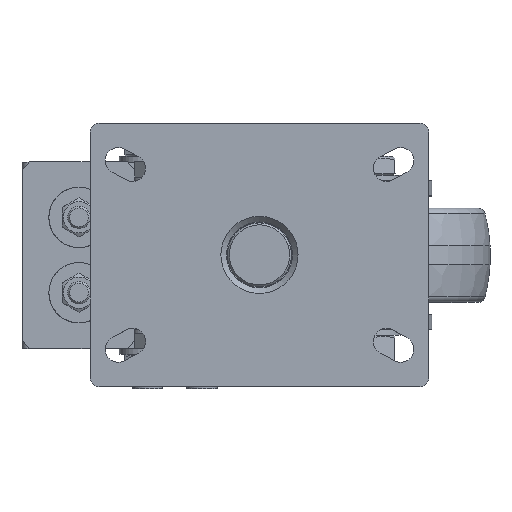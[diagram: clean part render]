
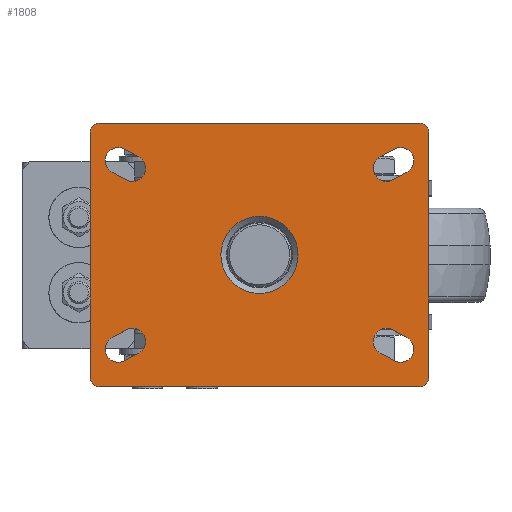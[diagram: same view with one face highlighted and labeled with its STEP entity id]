
A CAD part, top view. The second image highlights one B-rep face of the part: STEP entity #1808.
In plain terms, the highlighted planar face has unit normal (0, 0, 1).
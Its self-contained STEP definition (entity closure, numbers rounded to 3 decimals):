
#913=FACE_BOUND('',#3469,.T.);
#914=FACE_BOUND('',#3470,.T.);
#915=FACE_BOUND('',#3471,.T.);
#916=FACE_BOUND('',#3472,.T.);
#917=FACE_BOUND('',#3473,.T.);
#918=FACE_BOUND('',#3474,.T.);
#1365=CIRCLE('',#11016,7.);
#1366=CIRCLE('',#11019,7.);
#1367=CIRCLE('',#11021,7.);
#1368=CIRCLE('',#11024,7.);
#1369=CIRCLE('',#11026,7.);
#1370=CIRCLE('',#11029,7.);
#1371=CIRCLE('',#11031,7.);
#1372=CIRCLE('',#11034,7.);
#1373=CIRCLE('',#11044,20.5);
#1374=CIRCLE('',#11045,5.);
#1375=CIRCLE('',#11046,5.);
#1376=CIRCLE('',#11047,5.);
#1377=CIRCLE('',#11048,5.);
#1808=ADVANCED_FACE('',(#913,#914,#915,#916,#917,#918),#2312,.T.);
#2312=PLANE('',#11049);
#3469=EDGE_LOOP('',(#5147));
#3470=EDGE_LOOP('',(#5148,#5149,#5150,#5151,#5152,#5153,#5154,#5155));
#3471=EDGE_LOOP('',(#5156,#5157,#5158,#5159));
#3472=EDGE_LOOP('',(#5160,#5161,#5162,#5163));
#3473=EDGE_LOOP('',(#5164,#5165,#5166,#5167));
#3474=EDGE_LOOP('',(#5168,#5169,#5170,#5171));
#5147=ORIENTED_EDGE('',*,*,#8428,.T.);
#5148=ORIENTED_EDGE('',*,*,#8413,.T.);
#5149=ORIENTED_EDGE('',*,*,#8429,.T.);
#5150=ORIENTED_EDGE('',*,*,#8415,.T.);
#5151=ORIENTED_EDGE('',*,*,#8430,.T.);
#5152=ORIENTED_EDGE('',*,*,#8418,.T.);
#5153=ORIENTED_EDGE('',*,*,#8431,.T.);
#5154=ORIENTED_EDGE('',*,*,#8425,.T.);
#5155=ORIENTED_EDGE('',*,*,#8432,.T.);
#5156=ORIENTED_EDGE('',*,*,#8405,.F.);
#5157=ORIENTED_EDGE('',*,*,#8408,.F.);
#5158=ORIENTED_EDGE('',*,*,#8410,.F.);
#5159=ORIENTED_EDGE('',*,*,#8423,.F.);
#5160=ORIENTED_EDGE('',*,*,#8398,.T.);
#5161=ORIENTED_EDGE('',*,*,#8401,.T.);
#5162=ORIENTED_EDGE('',*,*,#8403,.T.);
#5163=ORIENTED_EDGE('',*,*,#8422,.T.);
#5164=ORIENTED_EDGE('',*,*,#8391,.T.);
#5165=ORIENTED_EDGE('',*,*,#8394,.T.);
#5166=ORIENTED_EDGE('',*,*,#8396,.T.);
#5167=ORIENTED_EDGE('',*,*,#8421,.T.);
#5168=ORIENTED_EDGE('',*,*,#8384,.F.);
#5169=ORIENTED_EDGE('',*,*,#8387,.F.);
#5170=ORIENTED_EDGE('',*,*,#8389,.F.);
#5171=ORIENTED_EDGE('',*,*,#8427,.F.);
#7228=VERTEX_POINT('',#16320);
#7229=VERTEX_POINT('',#16321);
#7230=VERTEX_POINT('',#16326);
#7231=VERTEX_POINT('',#16330);
#7232=VERTEX_POINT('',#16334);
#7233=VERTEX_POINT('',#16335);
#7234=VERTEX_POINT('',#16340);
#7235=VERTEX_POINT('',#16344);
#7236=VERTEX_POINT('',#16348);
#7237=VERTEX_POINT('',#16349);
#7238=VERTEX_POINT('',#16354);
#7239=VERTEX_POINT('',#16358);
#7240=VERTEX_POINT('',#16362);
#7241=VERTEX_POINT('',#16363);
#7242=VERTEX_POINT('',#16368);
#7243=VERTEX_POINT('',#16372);
#7244=VERTEX_POINT('',#16376);
#7245=VERTEX_POINT('',#16378);
#7246=VERTEX_POINT('',#16382);
#7247=VERTEX_POINT('',#16383);
#7248=VERTEX_POINT('',#16388);
#7249=VERTEX_POINT('',#16389);
#7250=VERTEX_POINT('',#16400);
#7251=VERTEX_POINT('',#16402);
#7252=VERTEX_POINT('',#16408);
#8384=EDGE_CURVE('',#7228,#7229,#1365,.T.);
#8387=EDGE_CURVE('',#7230,#7228,#9440,.T.);
#8389=EDGE_CURVE('',#7231,#7230,#1366,.T.);
#8391=EDGE_CURVE('',#7232,#7233,#1367,.T.);
#8394=EDGE_CURVE('',#7233,#7234,#9445,.T.);
#8396=EDGE_CURVE('',#7234,#7235,#1368,.T.);
#8398=EDGE_CURVE('',#7236,#7237,#1369,.T.);
#8401=EDGE_CURVE('',#7237,#7238,#9450,.T.);
#8403=EDGE_CURVE('',#7238,#7239,#1370,.T.);
#8405=EDGE_CURVE('',#7240,#7241,#1371,.T.);
#8408=EDGE_CURVE('',#7242,#7240,#9455,.T.);
#8410=EDGE_CURVE('',#7243,#7242,#1372,.T.);
#8413=EDGE_CURVE('',#7245,#7244,#9459,.T.);
#8415=EDGE_CURVE('',#7246,#7247,#9461,.T.);
#8418=EDGE_CURVE('',#7248,#7249,#9464,.T.);
#8421=EDGE_CURVE('',#7235,#7232,#9467,.T.);
#8422=EDGE_CURVE('',#7239,#7236,#9468,.T.);
#8423=EDGE_CURVE('',#7241,#7243,#9469,.T.);
#8425=EDGE_CURVE('',#7251,#7250,#9471,.T.);
#8427=EDGE_CURVE('',#7229,#7231,#9473,.T.);
#8428=EDGE_CURVE('',#7252,#7252,#1373,.T.);
#8429=EDGE_CURVE('',#7244,#7246,#1374,.T.);
#8430=EDGE_CURVE('',#7247,#7248,#1375,.T.);
#8431=EDGE_CURVE('',#7249,#7251,#1376,.T.);
#8432=EDGE_CURVE('',#7250,#7245,#1377,.T.);
#9440=LINE('',#16325,#10082);
#9445=LINE('',#16339,#10087);
#9450=LINE('',#16353,#10092);
#9455=LINE('',#16367,#10097);
#9459=LINE('',#16377,#10101);
#9461=LINE('',#16381,#10103);
#9464=LINE('',#16387,#10106);
#9467=LINE('',#16393,#10109);
#9468=LINE('',#16395,#10110);
#9469=LINE('',#16397,#10111);
#9471=LINE('',#16401,#10113);
#9473=LINE('',#16405,#10115);
#10082=VECTOR('',#12835,1.);
#10087=VECTOR('',#12850,1.);
#10092=VECTOR('',#12865,1.);
#10097=VECTOR('',#12880,1.);
#10101=VECTOR('',#12890,1.);
#10103=VECTOR('',#12894,1.);
#10106=VECTOR('',#12899,1.);
#10109=VECTOR('',#12904,1.);
#10110=VECTOR('',#12907,1.);
#10111=VECTOR('',#12910,1.);
#10113=VECTOR('',#12914,1.);
#10115=VECTOR('',#12918,1.);
#11016=AXIS2_PLACEMENT_3D('',#16319,#12829,#12830);
#11019=AXIS2_PLACEMENT_3D('',#16329,#12839,#12840);
#11021=AXIS2_PLACEMENT_3D('',#16333,#12844,#12845);
#11024=AXIS2_PLACEMENT_3D('',#16343,#12854,#12855);
#11026=AXIS2_PLACEMENT_3D('',#16347,#12859,#12860);
#11029=AXIS2_PLACEMENT_3D('',#16357,#12869,#12870);
#11031=AXIS2_PLACEMENT_3D('',#16361,#12874,#12875);
#11034=AXIS2_PLACEMENT_3D('',#16371,#12884,#12885);
#11044=AXIS2_PLACEMENT_3D('',#16407,#12921,#12922);
#11045=AXIS2_PLACEMENT_3D('',#16409,#12923,#12924);
#11046=AXIS2_PLACEMENT_3D('',#16410,#12925,#12926);
#11047=AXIS2_PLACEMENT_3D('',#16411,#12927,#12928);
#11048=AXIS2_PLACEMENT_3D('',#16412,#12929,#12930);
#11049=AXIS2_PLACEMENT_3D('',#16413,#12931,#12932);
#12829=DIRECTION('',(0.,0.,1.));
#12830=DIRECTION('',(-1.,0.,0.));
#12835=DIRECTION('',(-0.882,0.471,0.));
#12839=DIRECTION('',(0.,0.,1.));
#12840=DIRECTION('',(-1.,0.,0.));
#12844=DIRECTION('',(0.,0.,-1.));
#12845=DIRECTION('',(-1.,0.,0.));
#12850=DIRECTION('',(0.882,0.471,0.));
#12854=DIRECTION('',(0.,0.,-1.));
#12855=DIRECTION('',(-1.,0.,0.));
#12859=DIRECTION('',(0.,0.,-1.));
#12860=DIRECTION('',(1.,0.,0.));
#12865=DIRECTION('',(0.882,0.471,0.));
#12869=DIRECTION('',(0.,0.,-1.));
#12870=DIRECTION('',(1.,0.,0.));
#12874=DIRECTION('',(0.,0.,1.));
#12875=DIRECTION('',(1.,0.,0.));
#12880=DIRECTION('',(-0.882,0.471,0.));
#12884=DIRECTION('',(0.,0.,1.));
#12885=DIRECTION('',(1.,0.,0.));
#12890=DIRECTION('',(0.,-1.,0.));
#12894=DIRECTION('',(1.,0.,0.));
#12899=DIRECTION('',(0.,1.,0.));
#12904=DIRECTION('',(-0.882,-0.471,0.));
#12907=DIRECTION('',(-0.882,-0.471,0.));
#12910=DIRECTION('',(0.882,-0.471,0.));
#12914=DIRECTION('',(-1.,0.,0.));
#12918=DIRECTION('',(0.882,-0.471,0.));
#12921=DIRECTION('',(0.,0.,-1.));
#12922=DIRECTION('',(-1.,0.,0.));
#12923=DIRECTION('',(0.,0.,1.));
#12924=DIRECTION('',(-1.,0.,0.));
#12925=DIRECTION('',(0.,0.,1.));
#12926=DIRECTION('',(-1.,0.,0.));
#12927=DIRECTION('',(0.,0.,1.));
#12928=DIRECTION('',(-1.,0.,0.));
#12929=DIRECTION('',(0.,0.,1.));
#12930=DIRECTION('',(-1.,0.,0.));
#12931=DIRECTION('',(0.,0.,1.));
#12932=DIRECTION('',(-1.,0.,0.));
#16319=CARTESIAN_POINT('',(67.5,-46.,-35.362));
#16320=CARTESIAN_POINT('',(70.794,-39.824,-35.362));
#16321=CARTESIAN_POINT('',(64.206,-52.176,-35.362));
#16325=CARTESIAN_POINT('',(78.294,-43.824,-35.362));
#16326=CARTESIAN_POINT('',(78.294,-43.824,-35.362));
#16329=CARTESIAN_POINT('',(75.,-50.,-35.362));
#16330=CARTESIAN_POINT('',(71.706,-56.176,-35.362));
#16333=CARTESIAN_POINT('',(67.5,46.,-35.362));
#16334=CARTESIAN_POINT('',(70.794,39.824,-35.362));
#16335=CARTESIAN_POINT('',(64.206,52.176,-35.362));
#16339=CARTESIAN_POINT('',(64.206,52.176,-35.362));
#16340=CARTESIAN_POINT('',(71.706,56.176,-35.362));
#16343=CARTESIAN_POINT('',(75.,50.,-35.362));
#16344=CARTESIAN_POINT('',(78.294,43.824,-35.362));
#16347=CARTESIAN_POINT('',(-75.,-50.,-35.362));
#16348=CARTESIAN_POINT('',(-71.706,-56.176,-35.362));
#16349=CARTESIAN_POINT('',(-78.294,-43.824,-35.362));
#16353=CARTESIAN_POINT('',(-78.294,-43.824,-35.362));
#16354=CARTESIAN_POINT('',(-70.794,-39.824,-35.362));
#16357=CARTESIAN_POINT('',(-67.5,-46.,-35.362));
#16358=CARTESIAN_POINT('',(-64.206,-52.176,-35.362));
#16361=CARTESIAN_POINT('',(-75.,50.,-35.362));
#16362=CARTESIAN_POINT('',(-71.706,56.176,-35.362));
#16363=CARTESIAN_POINT('',(-78.294,43.824,-35.362));
#16367=CARTESIAN_POINT('',(-64.206,52.176,-35.362));
#16368=CARTESIAN_POINT('',(-64.206,52.176,-35.362));
#16371=CARTESIAN_POINT('',(-67.5,46.,-35.362));
#16372=CARTESIAN_POINT('',(-70.794,39.824,-35.362));
#16376=CARTESIAN_POINT('',(-90.,-65.,-35.362));
#16377=CARTESIAN_POINT('',(-90.,70.,-35.362));
#16378=CARTESIAN_POINT('',(-90.,65.,-35.362));
#16381=CARTESIAN_POINT('',(-90.,-70.,-35.362));
#16382=CARTESIAN_POINT('',(-85.,-70.,-35.362));
#16383=CARTESIAN_POINT('',(85.,-70.,-35.362));
#16387=CARTESIAN_POINT('',(90.,-70.,-35.362));
#16388=CARTESIAN_POINT('',(90.,-65.,-35.362));
#16389=CARTESIAN_POINT('',(90.,65.,-35.362));
#16393=CARTESIAN_POINT('',(78.294,43.824,-35.362));
#16395=CARTESIAN_POINT('',(-64.206,-52.176,-35.362));
#16397=CARTESIAN_POINT('',(-78.294,43.824,-35.362));
#16400=CARTESIAN_POINT('',(-85.,70.,-35.362));
#16401=CARTESIAN_POINT('',(90.,70.,-35.362));
#16402=CARTESIAN_POINT('',(85.,70.,-35.362));
#16405=CARTESIAN_POINT('',(64.206,-52.176,-35.362));
#16407=CARTESIAN_POINT('',(0.,0.,
-35.362));
#16408=CARTESIAN_POINT('',(-20.5,0.,-35.362));
#16409=CARTESIAN_POINT('',(-85.,-65.,-35.362));
#16410=CARTESIAN_POINT('',(85.,-65.,-35.362));
#16411=CARTESIAN_POINT('',(85.,65.,-35.362));
#16412=CARTESIAN_POINT('',(-85.,65.,-35.362));
#16413=CARTESIAN_POINT('',(-75.,50.,-35.362));
